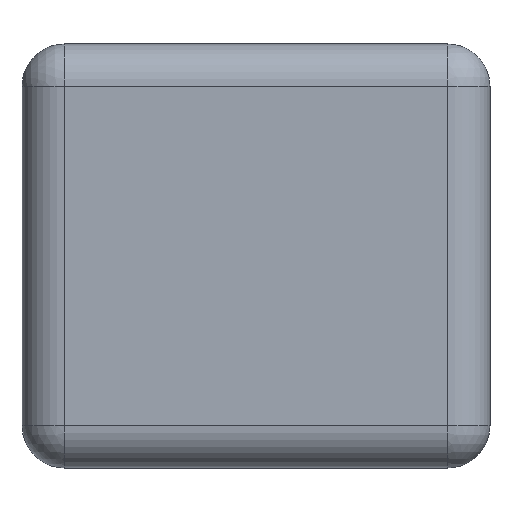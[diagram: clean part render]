
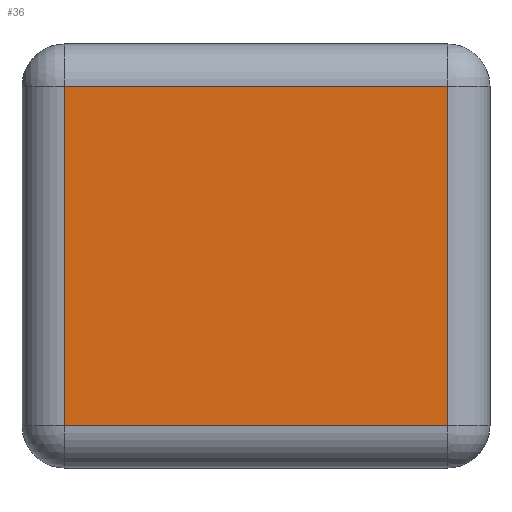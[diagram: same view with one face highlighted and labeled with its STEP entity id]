
A CAD part, left-side view. The second image highlights one B-rep face of the part: STEP entity #36.
In plain terms, the highlighted planar face has unit normal (-1, 0, 0).
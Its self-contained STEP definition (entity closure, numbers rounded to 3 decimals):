
#36 = ADVANCED_FACE('',(#37),#51,.F.);
#37 = FACE_BOUND('',#38,.F.);
#38 = EDGE_LOOP('',(#39,#74,#102,#130));
#39 = ORIENTED_EDGE('',*,*,#40,.F.);
#40 = EDGE_CURVE('',#41,#43,#45,.T.);
#41 = VERTEX_POINT('',#42);
#42 = CARTESIAN_POINT('',(-1.6,-0.655,0.145));
#43 = VERTEX_POINT('',#44);
#44 = CARTESIAN_POINT('',(-1.6,-0.655,1.305));
#45 = SURFACE_CURVE('',#46,(#50,#62),.PCURVE_S1.);
#46 = LINE('',#47,#48);
#47 = CARTESIAN_POINT('',(-1.6,-0.655,0.));
#48 = VECTOR('',#49,1.);
#49 = DIRECTION('',(0.,0.,1.));
#50 = PCURVE('',#51,#56);
#51 = PLANE('',#52);
#52 = AXIS2_PLACEMENT_3D('',#53,#54,#55);
#53 = CARTESIAN_POINT('',(-1.6,-0.8,0.));
#54 = DIRECTION('',(1.,0.,0.));
#55 = DIRECTION('',(0.,0.,1.));
#56 = DEFINITIONAL_REPRESENTATION('',(#57),#61);
#57 = LINE('',#58,#59);
#58 = CARTESIAN_POINT('',(0.,-0.145));
#59 = VECTOR('',#60,1.);
#60 = DIRECTION('',(1.,0.));
#61 = ( GEOMETRIC_REPRESENTATION_CONTEXT(2) 
PARAMETRIC_REPRESENTATION_CONTEXT() REPRESENTATION_CONTEXT('2D SPACE',''
  ) );
#62 = PCURVE('',#63,#68);
#63 = CYLINDRICAL_SURFACE('',#64,0.145);
#64 = AXIS2_PLACEMENT_3D('',#65,#66,#67);
#65 = CARTESIAN_POINT('',(-1.455,-0.655,0.));
#66 = DIRECTION('',(0.,0.,1.));
#67 = DIRECTION('',(-1.,-0.,0.));
#68 = DEFINITIONAL_REPRESENTATION('',(#69),#73);
#69 = LINE('',#70,#71);
#70 = CARTESIAN_POINT('',(0.,0.));
#71 = VECTOR('',#72,1.);
#72 = DIRECTION('',(0.,1.));
#73 = ( GEOMETRIC_REPRESENTATION_CONTEXT(2) 
PARAMETRIC_REPRESENTATION_CONTEXT() REPRESENTATION_CONTEXT('2D SPACE',''
  ) );
#74 = ORIENTED_EDGE('',*,*,#75,.T.);
#75 = EDGE_CURVE('',#41,#76,#78,.T.);
#76 = VERTEX_POINT('',#77);
#77 = CARTESIAN_POINT('',(-1.6,0.655,0.145));
#78 = SURFACE_CURVE('',#79,(#83,#90),.PCURVE_S1.);
#79 = LINE('',#80,#81);
#80 = CARTESIAN_POINT('',(-1.6,-0.8,0.145));
#81 = VECTOR('',#82,1.);
#82 = DIRECTION('',(0.,1.,0.));
#83 = PCURVE('',#51,#84);
#84 = DEFINITIONAL_REPRESENTATION('',(#85),#89);
#85 = LINE('',#86,#87);
#86 = CARTESIAN_POINT('',(0.145,0.));
#87 = VECTOR('',#88,1.);
#88 = DIRECTION('',(0.,-1.));
#89 = ( GEOMETRIC_REPRESENTATION_CONTEXT(2) 
PARAMETRIC_REPRESENTATION_CONTEXT() REPRESENTATION_CONTEXT('2D SPACE',''
  ) );
#90 = PCURVE('',#91,#96);
#91 = CYLINDRICAL_SURFACE('',#92,0.145);
#92 = AXIS2_PLACEMENT_3D('',#93,#94,#95);
#93 = CARTESIAN_POINT('',(-1.455,-0.8,0.145));
#94 = DIRECTION('',(0.,1.,0.));
#95 = DIRECTION('',(-1.,0.,0.));
#96 = DEFINITIONAL_REPRESENTATION('',(#97),#101);
#97 = LINE('',#98,#99);
#98 = CARTESIAN_POINT('',(-0.,0.));
#99 = VECTOR('',#100,1.);
#100 = DIRECTION('',(-0.,1.));
#101 = ( GEOMETRIC_REPRESENTATION_CONTEXT(2) 
PARAMETRIC_REPRESENTATION_CONTEXT() REPRESENTATION_CONTEXT('2D SPACE',''
  ) );
#102 = ORIENTED_EDGE('',*,*,#103,.T.);
#103 = EDGE_CURVE('',#76,#104,#106,.T.);
#104 = VERTEX_POINT('',#105);
#105 = CARTESIAN_POINT('',(-1.6,0.655,1.305));
#106 = SURFACE_CURVE('',#107,(#111,#118),.PCURVE_S1.);
#107 = LINE('',#108,#109);
#108 = CARTESIAN_POINT('',(-1.6,0.655,0.));
#109 = VECTOR('',#110,1.);
#110 = DIRECTION('',(0.,0.,1.));
#111 = PCURVE('',#51,#112);
#112 = DEFINITIONAL_REPRESENTATION('',(#113),#117);
#113 = LINE('',#114,#115);
#114 = CARTESIAN_POINT('',(0.,-1.455));
#115 = VECTOR('',#116,1.);
#116 = DIRECTION('',(1.,0.));
#117 = ( GEOMETRIC_REPRESENTATION_CONTEXT(2) 
PARAMETRIC_REPRESENTATION_CONTEXT() REPRESENTATION_CONTEXT('2D SPACE',''
  ) );
#118 = PCURVE('',#119,#124);
#119 = CYLINDRICAL_SURFACE('',#120,0.145);
#120 = AXIS2_PLACEMENT_3D('',#121,#122,#123);
#121 = CARTESIAN_POINT('',(-1.455,0.655,0.));
#122 = DIRECTION('',(0.,0.,1.));
#123 = DIRECTION('',(-1.,-0.,0.));
#124 = DEFINITIONAL_REPRESENTATION('',(#125),#129);
#125 = LINE('',#126,#127);
#126 = CARTESIAN_POINT('',(-0.,0.));
#127 = VECTOR('',#128,1.);
#128 = DIRECTION('',(-0.,1.));
#129 = ( GEOMETRIC_REPRESENTATION_CONTEXT(2) 
PARAMETRIC_REPRESENTATION_CONTEXT() REPRESENTATION_CONTEXT('2D SPACE',''
  ) );
#130 = ORIENTED_EDGE('',*,*,#131,.F.);
#131 = EDGE_CURVE('',#43,#104,#132,.T.);
#132 = SURFACE_CURVE('',#133,(#137,#144),.PCURVE_S1.);
#133 = LINE('',#134,#135);
#134 = CARTESIAN_POINT('',(-1.6,-0.8,1.305));
#135 = VECTOR('',#136,1.);
#136 = DIRECTION('',(0.,1.,0.));
#137 = PCURVE('',#51,#138);
#138 = DEFINITIONAL_REPRESENTATION('',(#139),#143);
#139 = LINE('',#140,#141);
#140 = CARTESIAN_POINT('',(1.305,0.));
#141 = VECTOR('',#142,1.);
#142 = DIRECTION('',(0.,-1.));
#143 = ( GEOMETRIC_REPRESENTATION_CONTEXT(2) 
PARAMETRIC_REPRESENTATION_CONTEXT() REPRESENTATION_CONTEXT('2D SPACE',''
  ) );
#144 = PCURVE('',#145,#150);
#145 = CYLINDRICAL_SURFACE('',#146,0.145);
#146 = AXIS2_PLACEMENT_3D('',#147,#148,#149);
#147 = CARTESIAN_POINT('',(-1.455,-0.8,1.305));
#148 = DIRECTION('',(0.,1.,0.));
#149 = DIRECTION('',(-1.,0.,0.));
#150 = DEFINITIONAL_REPRESENTATION('',(#151),#155);
#151 = LINE('',#152,#153);
#152 = CARTESIAN_POINT('',(0.,0.));
#153 = VECTOR('',#154,1.);
#154 = DIRECTION('',(0.,1.));
#155 = ( GEOMETRIC_REPRESENTATION_CONTEXT(2) 
PARAMETRIC_REPRESENTATION_CONTEXT() REPRESENTATION_CONTEXT('2D SPACE',''
  ) );
